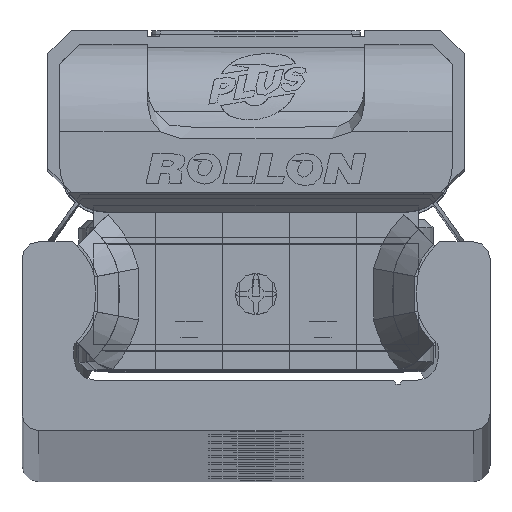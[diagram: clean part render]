
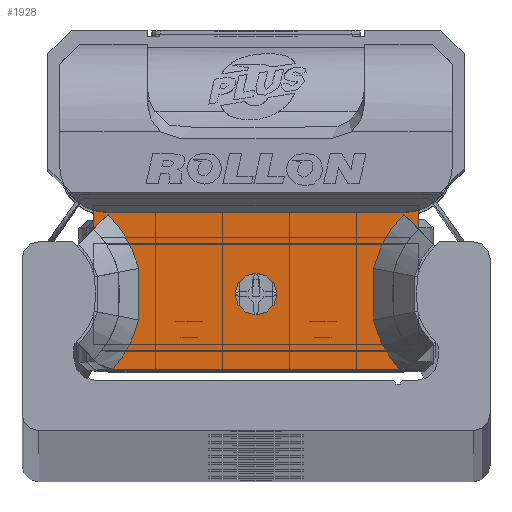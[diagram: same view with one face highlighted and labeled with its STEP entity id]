
A CAD part, top view. The second image highlights one B-rep face of the part: STEP entity #1928.
In plain terms, the highlighted planar face has unit normal (0, 0, 1) as drawn and (0, 0, -1) by its records, which use the part's own axes.
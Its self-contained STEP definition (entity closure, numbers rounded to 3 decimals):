
#1928 = ADVANCED_FACE( '', ( #4084, #4085 ), #4086, .F. );
#4084 = FACE_BOUND( '', #6457, .T. );
#4085 = FACE_OUTER_BOUND( '', #6458, .T. );
#4086 = PLANE( '', #6459 );
#6457 = EDGE_LOOP( '', ( #11630 ) );
#6458 = EDGE_LOOP( '', ( #11631, #11632, #11633, #11634, #11635, #11636, #11637, #11638, #11639, #11640, #11641, #11642, #11643, #11644 ) );
#6459 = AXIS2_PLACEMENT_3D( '', #11645, #11646, #11647 );
#11630 = ORIENTED_EDGE( '', *, *, #14686, .T. );
#11631 = ORIENTED_EDGE( '', *, *, #13008, .F. );
#11632 = ORIENTED_EDGE( '', *, *, #13873, .T. );
#11633 = ORIENTED_EDGE( '', *, *, #12843, .T. );
#11634 = ORIENTED_EDGE( '', *, *, #12817, .T. );
#11635 = ORIENTED_EDGE( '', *, *, #14440, .T. );
#11636 = ORIENTED_EDGE( '', *, *, #13625, .T. );
#11637 = ORIENTED_EDGE( '', *, *, #14141, .T. );
#11638 = ORIENTED_EDGE( '', *, *, #13060, .T. );
#11639 = ORIENTED_EDGE( '', *, *, #14399, .T. );
#11640 = ORIENTED_EDGE( '', *, *, #14577, .T. );
#11641 = ORIENTED_EDGE( '', *, *, #14692, .T. );
#11642 = ORIENTED_EDGE( '', *, *, #13765, .T. );
#11643 = ORIENTED_EDGE( '', *, *, #13284, .T. );
#11644 = ORIENTED_EDGE( '', *, *, #14711, .T. );
#11645 = CARTESIAN_POINT( '', ( 9.7, 4.89, -10.6 ) );
#11646 = DIRECTION( '', ( 0., 0., 1. ) );
#11647 = DIRECTION( '', ( 1., 0., 0. ) );
#12817 = EDGE_CURVE( '', #15191, #15201, #15203, .T. );
#12843 = EDGE_CURVE( '', #15244, #15191, #15247, .T. );
#13008 = EDGE_CURVE( '', #15528, #15026, #15530, .T. );
#13060 = EDGE_CURVE( '', #15618, #15616, #15619, .T. );
#13284 = EDGE_CURVE( '', #15996, #15997, #15998, .T. );
#13625 = EDGE_CURVE( '', #16542, #16540, #16543, .T. );
#13765 = EDGE_CURVE( '', #16755, #15996, #16756, .T. );
#13873 = EDGE_CURVE( '', #15528, #15244, #16919, .T. );
#14141 = EDGE_CURVE( '', #16540, #15618, #17320, .T. );
#14399 = EDGE_CURVE( '', #15616, #15803, #17654, .T. );
#14440 = EDGE_CURVE( '', #15201, #16542, #17702, .T. );
#14577 = EDGE_CURVE( '', #15803, #16075, #17868, .T. );
#14686 = EDGE_CURVE( '', #18000, #18000, #18001, .T. );
#14692 = EDGE_CURVE( '', #16075, #16755, #18009, .T. );
#14711 = EDGE_CURVE( '', #15997, #15026, #18029, .T. );
#15026 = VERTEX_POINT( '', #18409 );
#15191 = VERTEX_POINT( '', #18704 );
#15201 = VERTEX_POINT( '', #18716 );
#15203 = CIRCLE( '', #18719, 2.8 );
#15244 = VERTEX_POINT( '', #18769 );
#15247 = LINE( '', #18774, #18775 );
#15528 = VERTEX_POINT( '', #19171 );
#15530 = LINE( '', #19174, #19175 );
#15616 = VERTEX_POINT( '', #19287 );
#15618 = VERTEX_POINT( '', #19290 );
#15619 = B_SPLINE_CURVE_WITH_KNOTS( '', 2, ( #19291, #19292, #19293 ), .UNSPECIFIED., .F., .F., ( 3, 3 ), ( 0., 1. ), .UNSPECIFIED. );
#15803 = VERTEX_POINT( '', #19551 );
#15996 = VERTEX_POINT( '', #19800 );
#15997 = VERTEX_POINT( '', #19801 );
#15998 = B_SPLINE_CURVE_WITH_KNOTS( '', 2, ( #19802, #19803, #19804 ), .UNSPECIFIED., .F., .F., ( 3, 3 ), ( 0., 1. ), .UNSPECIFIED. );
#16075 = VERTEX_POINT( '', #19914 );
#16540 = VERTEX_POINT( '', #20600 );
#16542 = VERTEX_POINT( '', #20603 );
#16543 = LINE( '', #20604, #20605 );
#16755 = VERTEX_POINT( '', #20930 );
#16756 = B_SPLINE_CURVE_WITH_KNOTS( '', 2, ( #20931, #20932, #20933 ), .UNSPECIFIED., .F., .F., ( 3, 3 ), ( 0., 1. ), .UNSPECIFIED. );
#16919 = CIRCLE( '', #21190, 2.8 );
#17320 = B_SPLINE_CURVE_WITH_KNOTS( '', 2, ( #21747, #21748, #21749, #21750, #21751 ), .UNSPECIFIED., .F., .F., ( 3, 2, 3 ), ( 0., 0.5, 1. ), .UNSPECIFIED. );
#17654 = B_SPLINE_CURVE_WITH_KNOTS( '', 2, ( #22218, #22219, #22220 ), .UNSPECIFIED., .F., .F., ( 3, 3 ), ( 0., 1. ), .UNSPECIFIED. );
#17702 = LINE( '', #22285, #22286 );
#17868 = LINE( '', #22498, #22499 );
#18000 = VERTEX_POINT( '', #22671 );
#18001 = CIRCLE( '', #22672, 1.25 );
#18009 = B_SPLINE_CURVE_WITH_KNOTS( '', 2, ( #22689, #22690, #22691 ), .UNSPECIFIED., .F., .F., ( 3, 3 ), ( 0.1, 1. ), .UNSPECIFIED. );
#18029 = LINE( '', #22715, #22716 );
#18409 = CARTESIAN_POINT( '', ( -9.7, 3.494, -10.6 ) );
#18704 = CARTESIAN_POINT( '', ( 8.95, 4.51, -10.6 ) );
#18716 = CARTESIAN_POINT( '', ( 9.7, 4.612, -10.6 ) );
#18719 = AXIS2_PLACEMENT_3D( '', #23172, #23173, #23174 );
#18769 = CARTESIAN_POINT( '', ( -8.95, 4.51, -10.6 ) );
#18774 = CARTESIAN_POINT( '', ( 9.7, 4.51, -10.6 ) );
#18775 = VECTOR( '', #23210, 1000. );
#19171 = CARTESIAN_POINT( '', ( -9.7, 4.612, -10.6 ) );
#19174 = CARTESIAN_POINT( '', ( -9.7, 4.89, -10.6 ) );
#19175 = VECTOR( '', #23458, 1000. );
#19287 = CARTESIAN_POINT( '', ( 7.031, -1.944, -10.6 ) );
#19290 = CARTESIAN_POINT( '', ( 7.031, 1.144, -10.6 ) );
#19291 = CARTESIAN_POINT( '', ( 7.031, 1.144, -10.6 ) );
#19292 = CARTESIAN_POINT( '', ( 6.929, -0.4, -10.6 ) );
#19293 = CARTESIAN_POINT( '', ( 7.031, -1.944, -10.6 ) );
#19551 = CARTESIAN_POINT( '', ( 8.59, -4.893, -10.6 ) );
#19800 = CARTESIAN_POINT( '', ( -7.031, 1.144, -10.6 ) );
#19801 = CARTESIAN_POINT( '', ( -8.853, 4.366, -10.6 ) );
#19802 = CARTESIAN_POINT( '', ( -7.031, 1.144, -10.6 ) );
#19803 = CARTESIAN_POINT( '', ( -7.477, 3.018, -10.6 ) );
#19804 = CARTESIAN_POINT( '', ( -8.853, 4.366, -10.6 ) );
#19914 = CARTESIAN_POINT( '', ( -8.59, -4.893, -10.6 ) );
#20600 = CARTESIAN_POINT( '', ( 8.853, 4.366, -10.6 ) );
#20603 = CARTESIAN_POINT( '', ( 9.7, 3.497, -10.6 ) );
#20604 = CARTESIAN_POINT( '', ( 9.7, 3.501, -10.6 ) );
#20605 = VECTOR( '', #24276, 1000. );
#20930 = CARTESIAN_POINT( '', ( -7.031, -1.944, -10.6 ) );
#20931 = CARTESIAN_POINT( '', ( -7.031, -1.944, -10.6 ) );
#20932 = CARTESIAN_POINT( '', ( -6.929, -0.4, -10.6 ) );
#20933 = CARTESIAN_POINT( '', ( -7.031, 1.144, -10.6 ) );
#21190 = AXIS2_PLACEMENT_3D( '', #24559, #24560, #24561 );
#21747 = CARTESIAN_POINT( '', ( 8.853, 4.366, -10.6 ) );
#21748 = CARTESIAN_POINT( '', ( 8.182, 3.708, -10.6 ) );
#21749 = CARTESIAN_POINT( '', ( 7.715, 2.883, -10.6 ) );
#21750 = CARTESIAN_POINT( '', ( 7.249, 2.058, -10.6 ) );
#21751 = CARTESIAN_POINT( '', ( 7.031, 1.144, -10.6 ) );
#22218 = CARTESIAN_POINT( '', ( 7.031, -1.944, -10.6 ) );
#22219 = CARTESIAN_POINT( '', ( 7.429, -3.615, -10.6 ) );
#22220 = CARTESIAN_POINT( '', ( 8.588, -4.89, -10.6 ) );
#22285 = CARTESIAN_POINT( '', ( 9.7, 4.89, -10.6 ) );
#22286 = VECTOR( '', #25335, 1000. );
#22498 = CARTESIAN_POINT( '', ( 9.7, -4.89, -10.6 ) );
#22499 = VECTOR( '', #25487, 1000. );
#22671 = CARTESIAN_POINT( '', ( 1.25, -0.39, -10.6 ) );
#22672 = AXIS2_PLACEMENT_3D( '', #25573, #25574, #25575 );
#22689 = CARTESIAN_POINT( '', ( -8.587, -4.89, -10.6 ) );
#22690 = CARTESIAN_POINT( '', ( -7.432, -3.63, -10.6 ) );
#22691 = CARTESIAN_POINT( '', ( -7.031, -1.944, -10.6 ) );
#22715 = CARTESIAN_POINT( '', ( -8.853, 4.366, -10.6 ) );
#22716 = VECTOR( '', #25586, 1000. );
#23172 = CARTESIAN_POINT( '', ( 8.95, 7.31, -10.6 ) );
#23173 = DIRECTION( '', ( 0., 0., 1. ) );
#23174 = DIRECTION( '', ( 1., 0., 0. ) );
#23210 = DIRECTION( '', ( 1., 0., 0. ) );
#23458 = DIRECTION( '', ( 0., -1., 0. ) );
#24276 = DIRECTION( '', ( -0.7, 0.714, 0. ) );
#24559 = CARTESIAN_POINT( '', ( -8.95, 7.31, -10.6 ) );
#24560 = DIRECTION( '', ( 0., 0., 1. ) );
#24561 = DIRECTION( '', ( 1., 0., 0. ) );
#25335 = DIRECTION( '', ( 0., -1., 0. ) );
#25487 = DIRECTION( '', ( -1., 0., 0. ) );
#25573 = CARTESIAN_POINT( '', ( 0., -0.39, -10.6 ) );
#25574 = DIRECTION( '', ( 0., 0., 1. ) );
#25575 = DIRECTION( '', ( 1., 0., 0. ) );
#25586 = DIRECTION( '', ( -0.7, -0.714, 0. ) );
